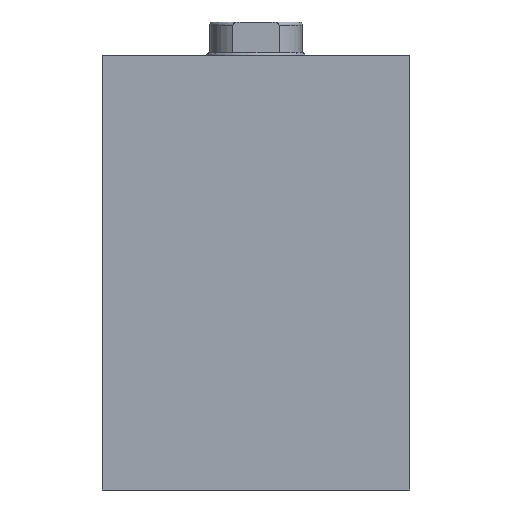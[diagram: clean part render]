
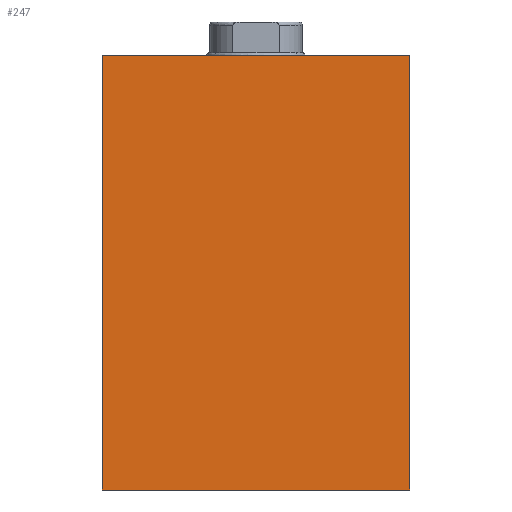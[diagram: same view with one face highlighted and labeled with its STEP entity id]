
A CAD part, left-side view. The second image highlights one B-rep face of the part: STEP entity #247.
In plain terms, the highlighted planar face has unit normal (-1, 0, 0) as drawn and (0, 0, -1) by its records, which use the part's own axes.
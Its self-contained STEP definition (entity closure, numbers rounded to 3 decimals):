
#247 = ADVANCED_FACE( '', ( #338 ), #339, .F. );
#338 = FACE_OUTER_BOUND( '', #554, .T. );
#339 = PLANE( '', #555 );
#554 = EDGE_LOOP( '', ( #789, #790, #791, #792 ) );
#555 = AXIS2_PLACEMENT_3D( '', #793, #794, #795 );
#789 = ORIENTED_EDGE( '', *, *, #1166, .T. );
#790 = ORIENTED_EDGE( '', *, *, #1183, .F. );
#791 = ORIENTED_EDGE( '', *, *, #1178, .F. );
#792 = ORIENTED_EDGE( '', *, *, #1182, .T. );
#793 = CARTESIAN_POINT( '', ( 141., -50., -37.5 ) );
#794 = DIRECTION( '', ( 0., 0., 1. ) );
#795 = DIRECTION( '', ( 1., 0., 0. ) );
#1166 = EDGE_CURVE( '', #1267, #1265, #1268, .T. );
#1178 = EDGE_CURVE( '', #1287, #1289, #1290, .T. );
#1182 = EDGE_CURVE( '', #1287, #1267, #1296, .T. );
#1183 = EDGE_CURVE( '', #1289, #1265, #1297, .T. );
#1265 = VERTEX_POINT( '', #1510 );
#1267 = VERTEX_POINT( '', #1513 );
#1268 = LINE( '', #1514, #1515 );
#1287 = VERTEX_POINT( '', #1706 );
#1289 = VERTEX_POINT( '', #1709 );
#1290 = LINE( '', #1710, #1711 );
#1296 = B_SPLINE_CURVE_WITH_KNOTS( '', 1, ( #1784, #1785 ), .UNSPECIFIED., .F., .F., ( 2, 2 ), ( 0., 1. ), .UNSPECIFIED. );
#1297 = B_SPLINE_CURVE_WITH_KNOTS( '', 1, ( #1786, #1787 ), .UNSPECIFIED., .F., .F., ( 2, 2 ), ( 0., 1. ), .UNSPECIFIED. );
#1510 = CARTESIAN_POINT( '', ( 0., 50., -37.5 ) );
#1513 = CARTESIAN_POINT( '', ( 0., -50., -37.5 ) );
#1514 = CARTESIAN_POINT( '', ( 0., -50., -37.5 ) );
#1515 = VECTOR( '', #4090, 1000. );
#1706 = CARTESIAN_POINT( '', ( 141., -50., -37.5 ) );
#1709 = CARTESIAN_POINT( '', ( 141., 50., -37.5 ) );
#1710 = CARTESIAN_POINT( '', ( 141., -50., -37.5 ) );
#1711 = VECTOR( '', #4097, 1000. );
#1784 = CARTESIAN_POINT( '', ( 141., -50., -37.5 ) );
#1785 = CARTESIAN_POINT( '', ( 0., -50., -37.5 ) );
#1786 = CARTESIAN_POINT( '', ( 141., 50., -37.5 ) );
#1787 = CARTESIAN_POINT( '', ( 0., 50., -37.5 ) );
#4090 = DIRECTION( '', ( 0., 1., 0. ) );
#4097 = DIRECTION( '', ( 0., 1., 0. ) );
